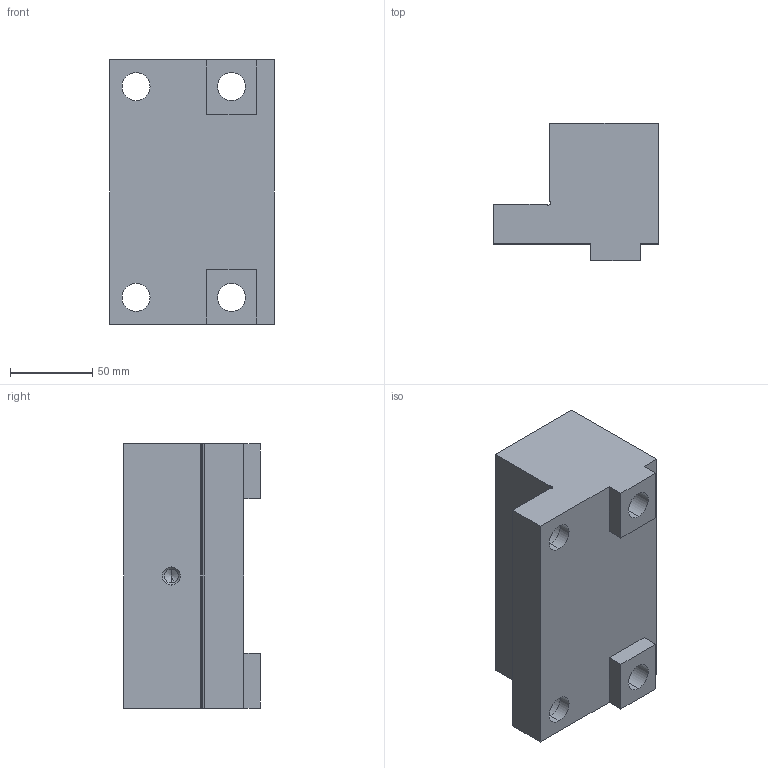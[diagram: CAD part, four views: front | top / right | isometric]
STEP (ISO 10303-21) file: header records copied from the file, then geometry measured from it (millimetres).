
FILE_DESCRIPTION (( 'STEP AP203' ), '1' );
FILE_NAME ('6921704012240.STEP', '2008-12-15T09:19:27', ( ' ' ), ( '' ), 'SwSTEP 2.0', 'SolidWorks 2008', '' );
FILE_SCHEMA (( 'CONFIG_CONTROL_DESIGN' ));
Length unit declared in the file: millimetre
Products named in the file (2): 6921704012240; 6921704012240_Kundenmodell
Assembly tree (1 placements, depth 2):
  6921704012240
    6921704012240_Kundenmodell
Bounding box: 100 x 83 x 160.4 mm (x, y, z)
Volume: 848329.8 mm3; surface area: 82277.2 mm2
Topology: 1 solids, 1 shells, 52 faces, 130 edges, 82 vertices
Faces by surface type: cylinder 22, plane 22, cone 8
Entity records: 1742 total; most frequent: DIRECTION 286, CARTESIAN_POINT 264, ORIENTED_EDGE 252, EDGE_CURVE 126, AXIS2_PLACEMENT_3D 104, VERTEX_POINT 82, VECTOR 78, LINE 78
